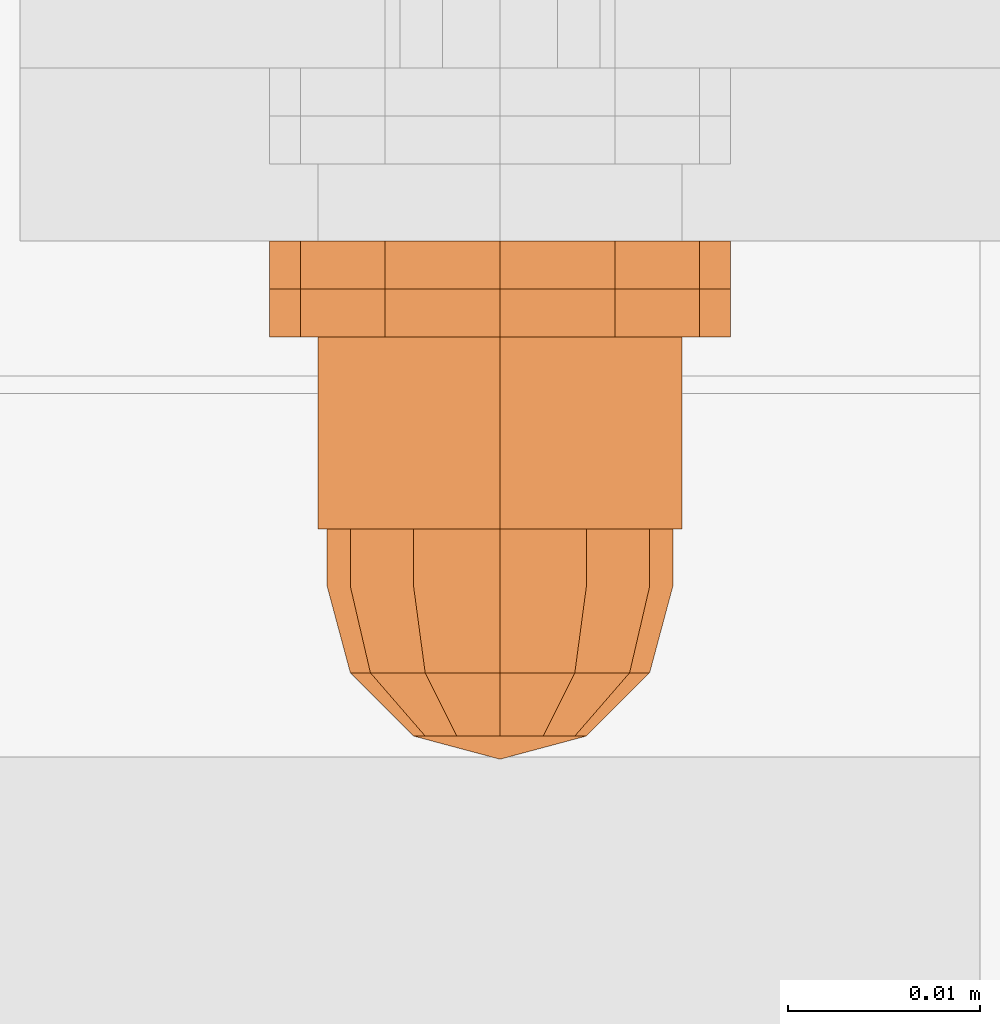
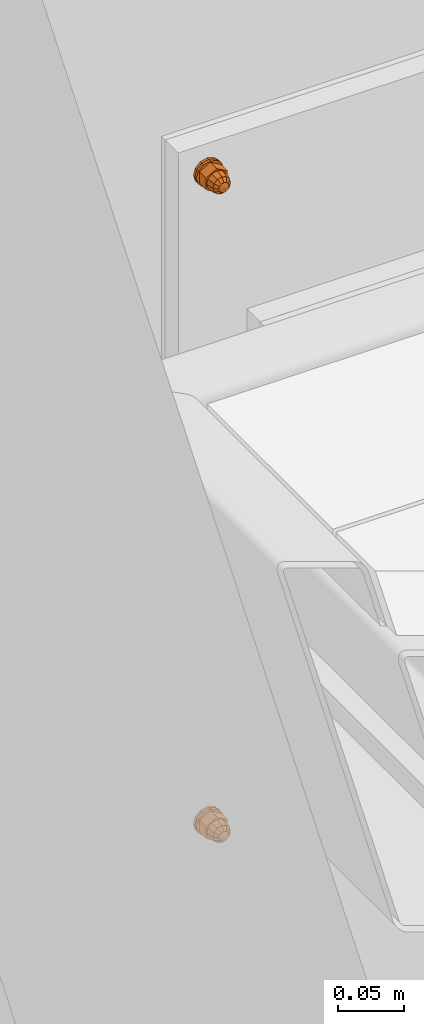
# One storey, part 136 of 162: 6 proxies.
"""IFC2X3 building model written with IfcOpenShell, lengths in millimetres."""

from ifc_helpers import new_model, entity, si_unit, converted_unit, origin_with_axes, place, context, project, spatial, faceted_brep, material, element, save


model = new_model("IFC2X3")

# Units and contexts
model_context = context("Model", 3, precision=1e-09, world=origin_with_axes())
ifc_project = project(units=[si_unit("LENGTHUNIT", "METRE", prefix="MILLI"), si_unit("AREAUNIT", "SQUARE_METRE"), si_unit("VOLUMEUNIT", "CUBIC_METRE"), converted_unit("PLANEANGLEUNIT", "DEGREE", entity("IfcPlaneAngleMeasure", 0.01745329), si_unit("PLANEANGLEUNIT", "RADIAN"), dimensions=[0, 0, 0, 0, 0, 0, 0])], contexts=[model_context])

# Site, building, storey
site_placement = place(None, origin_with_axes())
site = spatial("IfcSite", under=ifc_project, at=site_placement, Name="Hermannstra?e 1a, 60318 Frankfurt", CompositionType="ELEMENT")
building_placement = place(site_placement, origin_with_axes())
building = spatial("IfcBuilding", under=site, at=building_placement, Name="Struktur 1", CompositionType="ELEMENT")
storey_placement = place(building_placement, origin_with_axes())
storey = spatial("IfcBuildingStorey", under=building, at=storey_placement, Name="Default Storey", CompositionType="ELEMENT", Elevation=0.0)

# Proxies
ifc_material_1 = material(Name="Kunststoff")
proxy_1_placement = place(None, origin_with_axes())
element("IfcBuildingElementProxy", 1, at=proxy_1_placement, inside=storey, material=ifc_material_1, ObjectType="-", context=model_context, shape_type="Brep", body=[
    faceted_brep([(2688.702376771, 2708.110081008, 15355.999), (2688.702376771, 2710.610081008, 15355.999), (2690.310071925, 2710.610081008, 15361.999), (2690.310071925, 2708.110081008, 15361.999), (2684.310071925, 2710.610081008, 15351.606695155), (2678.310071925, 2710.610081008, 15349.999), (2672.310071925, 2710.610081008, 15351.606695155), (2667.91776708, 2710.610081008, 15355.999), (2666.310071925, 2710.610081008, 15361.999), (2667.91776708, 2710.610081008, 15367.999), (2672.310071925, 2710.610081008, 15372.391304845), (2678.310071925, 2710.610081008, 15373.999), (2684.310071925, 2710.610081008, 15372.391304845), (2688.702376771, 2710.610081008, 15367.999), (2681.560071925, 2710.610081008, 15356.369834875), (2683.93923705, 2710.610081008, 15358.749), (2684.810071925, 2710.610081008, 15361.999), (2683.93923705, 2710.610081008, 15365.249), (2681.560071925, 2710.610081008, 15367.628165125), (2678.310071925, 2710.610081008, 15368.499), (2675.060071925, 2710.610081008, 15367.628165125), (2672.680906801, 2710.610081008, 15365.249), (2671.810071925, 2710.610081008, 15361.999), (2672.680906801, 2710.610081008, 15358.749), (2675.060071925, 2710.610081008, 15356.369834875), (2678.310071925, 2710.610081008, 15355.499), (2684.810071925, 2708.110081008, 15361.999), (2683.93923705, 2708.110081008, 15358.749), (2684.310071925, 2708.110081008, 15351.606695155), (2688.702376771, 2708.110081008, 15367.999), (2684.310071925, 2708.110081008, 15372.391304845), (2678.310071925, 2708.110081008, 15373.999), (2672.310071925, 2708.110081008, 15372.391304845), (2667.91776708, 2708.110081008, 15367.999), (2666.310071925, 2708.110081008, 15361.999), (2667.91776708, 2708.110081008, 15355.999), (2672.310071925, 2708.110081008, 15351.606695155), (2678.310071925, 2708.110081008, 15349.999), (2681.560071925, 2708.110081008, 15356.369834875), (2678.310071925, 2708.110081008, 15355.499), (2675.060071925, 2708.110081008, 15356.369834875), (2672.680906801, 2708.110081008, 15358.749), (2671.810071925, 2708.110081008, 15361.999), (2672.680906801, 2708.110081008, 15365.249), (2675.060071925, 2708.110081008, 15367.628165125), (2678.310071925, 2708.110081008, 15368.499), (2681.560071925, 2708.110081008, 15367.628165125), (2683.93923705, 2708.110081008, 15365.249)], [[[0, 1, 2, 3]], [[1, 4, 5, 6, 7, 8, 9, 10, 11, 12, 13, 2], [14, 15, 16, 17, 18, 19, 20, 21, 22, 23, 24, 25]], [[26, 16, 15, 27]], [[28, 0, 3, 29, 30, 31, 32, 33, 34, 35, 36, 37], [26, 27, 38, 39, 40, 41, 42, 43, 44, 45, 46, 47]], [[1, 0, 28, 4]], [[16, 26, 47, 17]], [[3, 2, 13, 29]], [[27, 15, 14, 38]], [[4, 28, 37, 5]], [[17, 47, 46, 18]], [[29, 13, 12, 30]], [[38, 14, 25, 39]], [[18, 46, 45, 19]], [[5, 37, 36, 6]], [[39, 25, 24, 40]], [[30, 12, 11, 31]], [[19, 45, 44, 20]], [[6, 36, 35, 7]], [[40, 24, 23, 41]], [[31, 11, 10, 32]], [[20, 44, 43, 21]], [[7, 35, 34, 8]], [[41, 23, 22, 42]], [[32, 10, 9, 33]], [[21, 43, 42, 22]], [[8, 34, 33, 9]]]),
])
ifc_material_2 = material(Name="A4")
proxy_2_placement = place(None, origin_with_axes())
element("IfcBuildingElementProxy", 2, at=proxy_2_placement, inside=storey, material=ifc_material_2, ObjectType="-", context=model_context, shape_type="Brep", body=[
    faceted_brep([(2667.91776708, 2705.610081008, 15355.999), (2667.91776708, 2708.110081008, 15355.999), (2672.310071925, 2708.110081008, 15351.606695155), (2672.310071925, 2705.610081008, 15351.606695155), (2678.310071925, 2705.610081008, 15349.999), (2684.310071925, 2705.610081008, 15351.606695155), (2688.702376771, 2705.610081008, 15355.999), (2690.310071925, 2705.610081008, 15361.999), (2688.702376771, 2705.610081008, 15367.999), (2684.310071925, 2705.610081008, 15372.391304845), (2678.310071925, 2705.610081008, 15373.999), (2672.310071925, 2705.610081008, 15372.391304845), (2667.91776708, 2705.610081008, 15367.999), (2666.310071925, 2705.610081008, 15361.999), (2681.560071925, 2705.610081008, 15356.369834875), (2678.310071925, 2705.610081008, 15355.499), (2675.060071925, 2705.610081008, 15356.369834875), (2672.680906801, 2705.610081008, 15358.749), (2671.810071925, 2705.610081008, 15361.999), (2672.680906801, 2705.610081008, 15365.249), (2675.060071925, 2705.610081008, 15367.628165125), (2678.310071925, 2705.610081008, 15368.499), (2681.560071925, 2705.610081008, 15367.628165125), (2683.93923705, 2705.610081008, 15365.249), (2684.810071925, 2705.610081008, 15361.999), (2683.93923705, 2705.610081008, 15358.749), (2666.310071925, 2708.110081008, 15361.999), (2667.91776708, 2708.110081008, 15367.999), (2672.310071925, 2708.110081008, 15372.391304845), (2678.310071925, 2708.110081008, 15373.999), (2684.310071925, 2708.110081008, 15372.391304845), (2688.702376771, 2708.110081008, 15367.999), (2690.310071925, 2708.110081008, 15361.999), (2688.702376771, 2708.110081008, 15355.999), (2684.310071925, 2708.110081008, 15351.606695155), (2678.310071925, 2708.110081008, 15349.999), (2671.810071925, 2708.110081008, 15361.999), (2672.680906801, 2708.110081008, 15358.749), (2675.060071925, 2708.110081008, 15356.369834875), (2678.310071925, 2708.110081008, 15355.499), (2681.560071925, 2708.110081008, 15356.369834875), (2683.93923705, 2708.110081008, 15358.749), (2684.810071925, 2708.110081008, 15361.999), (2683.93923705, 2708.110081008, 15365.249), (2681.560071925, 2708.110081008, 15367.628165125), (2678.310071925, 2708.110081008, 15368.499), (2675.060071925, 2708.110081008, 15367.628165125), (2672.680906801, 2708.110081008, 15365.249)], [[[0, 1, 2, 3]], [[3, 4, 5, 6, 7, 8, 9, 10, 11, 12, 13, 0], [14, 15, 16, 17, 18, 19, 20, 21, 22, 23, 24, 25]], [[1, 26, 27, 28, 29, 30, 31, 32, 33, 34, 35, 2], [36, 37, 38, 39, 40, 41, 42, 43, 44, 45, 46, 47]], [[37, 17, 16, 38]], [[1, 0, 13, 26]], [[17, 37, 36, 18]], [[38, 16, 15, 39]], [[3, 2, 35, 4]], [[26, 13, 12, 27]], [[18, 36, 47, 19]], [[39, 15, 14, 40]], [[4, 35, 34, 5]], [[27, 12, 11, 28]], [[19, 47, 46, 20]], [[40, 14, 25, 41]], [[5, 34, 33, 6]], [[24, 42, 41, 25]], [[28, 11, 10, 29]], [[20, 46, 45, 21]], [[23, 43, 42, 24]], [[6, 33, 32, 7]], [[44, 22, 21, 45]], [[43, 23, 22, 44]], [[29, 10, 9, 30]], [[7, 32, 31, 8]], [[30, 9, 8, 31]]]),
])
proxy_3_placement = place(None, origin_with_axes())
element("IfcBuildingElementProxy", 3, at=proxy_3_placement, inside=storey, material=ifc_material_2, ObjectType="-", context=model_context, shape_type="Brep", body=[
    faceted_brep([(2684.310071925, 2705.610081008, 15361.999), (2684.310071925, 2695.610081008, 15361.999), (2683.506224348, 2695.610081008, 15364.999), (2683.506224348, 2705.610081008, 15364.999), (2681.310071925, 2695.610081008, 15367.195152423), (2681.310071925, 2705.610081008, 15367.195152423), (2683.506224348, 2705.610081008, 15358.999), (2683.506224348, 2695.610081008, 15358.999), (2687.789941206, 2705.610081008, 15356.525794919), (2678.310071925, 2705.610081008, 15351.052589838), (2668.830202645, 2705.610081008, 15356.525794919), (2668.830202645, 2705.610081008, 15367.472205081), (2678.310071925, 2705.610081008, 15372.945410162), (2687.789941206, 2705.610081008, 15367.472205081), (2681.310071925, 2705.610081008, 15356.802847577), (2678.310071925, 2705.610081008, 15367.999), (2675.310071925, 2705.610081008, 15367.195152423), (2673.113919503, 2705.610081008, 15364.999), (2672.310071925, 2705.610081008, 15361.999), (2673.113919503, 2705.610081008, 15358.999), (2675.310071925, 2705.610081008, 15356.802847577), (2678.310071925, 2705.610081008, 15355.999), (2678.310071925, 2695.610081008, 15351.052589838), (2687.789941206, 2695.610081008, 15356.525794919), (2687.789941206, 2695.610081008, 15367.472205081), (2678.310071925, 2695.610081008, 15372.945410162), (2668.830202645, 2695.610081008, 15367.472205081), (2668.830202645, 2695.610081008, 15356.525794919), (2681.310071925, 2695.610081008, 15356.802847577), (2678.310071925, 2695.610081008, 15355.999), (2675.310071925, 2695.610081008, 15356.802847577), (2673.113919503, 2695.610081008, 15358.999), (2672.310071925, 2695.610081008, 15361.999), (2673.113919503, 2695.610081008, 15364.999), (2675.310071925, 2695.610081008, 15367.195152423), (2678.310071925, 2695.610081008, 15367.999)], [[[0, 1, 2, 3]], [[3, 2, 4, 5]], [[1, 0, 6, 7]], [[8, 9, 10, 11, 12, 13], [14, 6, 0, 3, 5, 15, 16, 17, 18, 19, 20, 21]], [[22, 23, 24, 25, 26, 27], [1, 7, 28, 29, 30, 31, 32, 33, 34, 35, 4, 2]], [[7, 6, 14, 28]], [[24, 23, 8, 13]], [[5, 4, 35, 15]], [[13, 12, 25, 24]], [[28, 14, 21, 29]], [[23, 22, 9, 8]], [[15, 35, 34, 16]], [[12, 11, 26, 25]], [[29, 21, 20, 30]], [[22, 27, 10, 9]], [[16, 34, 33, 17]], [[27, 26, 11, 10]], [[30, 20, 19, 31]], [[17, 33, 32, 18]], [[31, 19, 18, 32]]]),
    faceted_brep([(2678.310071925, 2695.610081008, 15352.999), (2678.310071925, 2692.610081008, 15352.999), (2673.810071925, 2692.610081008, 15354.204771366), (2673.810071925, 2695.610081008, 15354.204771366), (2682.810071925, 2695.610081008, 15354.204771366), (2682.810071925, 2692.610081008, 15354.204771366), (2686.104300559, 2692.610081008, 15366.499), (2682.810071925, 2692.610081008, 15369.793228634), (2678.310071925, 2692.610081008, 15370.999), (2673.810071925, 2692.610081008, 15369.793228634), (2670.515843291, 2692.610081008, 15366.499), (2669.310071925, 2692.610081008, 15361.999), (2670.515843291, 2692.610081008, 15357.499), (2686.104300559, 2692.610081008, 15357.499), (2687.310071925, 2692.610081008, 15361.999), (2670.515843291, 2695.610081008, 15366.499), (2673.810071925, 2695.610081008, 15369.793228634), (2678.310071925, 2695.610081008, 15370.999), (2682.810071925, 2695.610081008, 15369.793228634), (2686.104300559, 2695.610081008, 15366.499), (2687.310071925, 2695.610081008, 15361.999), (2686.104300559, 2695.610081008, 15357.499), (2670.515843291, 2695.610081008, 15357.499), (2669.310071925, 2695.610081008, 15361.999)], [[[0, 1, 2, 3]], [[1, 0, 4, 5]], [[6, 7, 8, 9, 10, 11, 12, 2, 1, 5, 13, 14]], [[15, 16, 17, 18, 19, 20, 21, 4, 0, 3, 22, 23]], [[3, 2, 12, 22]], [[5, 4, 21, 13]], [[22, 12, 11, 23]], [[13, 21, 20, 14]], [[7, 18, 17, 8]], [[19, 6, 14, 20]], [[18, 7, 6, 19]], [[23, 11, 10, 15]], [[8, 17, 16, 9]], [[15, 10, 9, 16]]]),
    faceted_brep([(2686.104300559, 2692.610081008, 15357.499), (2685.060071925, 2688.110081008, 15358.101885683), (2682.207186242, 2688.110081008, 15355.249), (2682.810071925, 2692.610081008, 15354.204771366), (2670.515843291, 2692.610081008, 15366.499), (2673.810071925, 2692.610081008, 15369.793228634), (2678.310071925, 2692.610081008, 15370.999), (2682.810071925, 2692.610081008, 15369.793228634), (2686.104300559, 2692.610081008, 15366.499), (2687.310071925, 2692.610081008, 15361.999), (2678.310071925, 2692.610081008, 15352.999), (2673.810071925, 2692.610081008, 15354.204771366), (2670.515843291, 2692.610081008, 15357.499), (2669.310071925, 2692.610081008, 15361.999), (2678.310071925, 2688.110081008, 15354.204771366), (2686.104300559, 2688.110081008, 15361.999), (2682.810071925, 2684.815852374, 15361.999), (2682.207186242, 2684.815852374, 15359.749), (2674.412957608, 2688.110081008, 15355.249), (2680.560071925, 2684.815852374, 15358.101885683), (2685.060071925, 2688.110081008, 15365.896114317), (2682.207186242, 2684.815852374, 15364.249), (2678.310071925, 2684.815852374, 15357.499), (2678.310071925, 2683.610081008, 15361.999), (2682.207186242, 2688.110081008, 15368.749), (2680.560071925, 2684.815852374, 15365.896114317), (2678.310071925, 2688.110081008, 15369.793228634), (2671.560071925, 2688.110081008, 15358.101885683), (2676.060071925, 2684.815852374, 15358.101885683), (2678.310071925, 2684.815852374, 15366.499), (2674.412957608, 2688.110081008, 15368.749), (2676.060071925, 2684.815852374, 15365.896114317), (2670.515843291, 2688.110081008, 15361.999), (2674.412957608, 2684.815852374, 15359.749), (2671.560071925, 2688.110081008, 15365.896114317), (2674.412957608, 2684.815852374, 15364.249), (2673.810071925, 2684.815852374, 15361.999)], [[[0, 1, 2, 3]], [[4, 5, 6, 7, 8, 9, 0, 3, 10, 11, 12, 13]], [[3, 2, 14, 10]], [[15, 16, 17, 1]], [[1, 0, 9, 15]], [[10, 14, 18, 11]], [[1, 17, 19, 2]], [[16, 15, 20, 21]], [[2, 19, 22, 14]], [[23, 17, 16]], [[24, 25, 21, 20]], [[23, 16, 21]], [[24, 7, 6, 26]], [[20, 8, 7, 24]], [[15, 9, 8, 20]], [[11, 18, 27, 12]], [[14, 22, 28, 18]], [[23, 19, 17]], [[26, 29, 25, 24]], [[23, 21, 25]], [[23, 22, 19]], [[26, 6, 5, 30]], [[29, 26, 30, 31]], [[23, 25, 29]], [[12, 27, 32, 13]], [[18, 28, 33, 27]], [[23, 28, 22]], [[23, 29, 31]], [[23, 33, 28]], [[30, 5, 4, 34]], [[31, 30, 34, 35]], [[23, 31, 35]], [[13, 32, 34, 4]], [[27, 33, 36, 32]], [[23, 36, 33]], [[23, 35, 36]], [[35, 34, 32, 36]]]),
])
proxy_4_placement = place(None, origin_with_axes())
element("IfcBuildingElementProxy", 4, at=proxy_4_placement, inside=storey, material=ifc_material_2, ObjectType="-", context=model_context, shape_type="Brep", body=[
    faceted_brep([(2684.310071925, 2695.610081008, 14761.999), (2684.310071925, 2705.610081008, 14761.999), (2683.506224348, 2705.610081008, 14758.999), (2683.506224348, 2695.610081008, 14758.999), (2681.310071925, 2705.610081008, 14756.802847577), (2681.310071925, 2695.610081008, 14756.802847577), (2683.506224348, 2695.610081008, 14764.999), (2683.506224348, 2705.610081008, 14764.999), (2687.789941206, 2705.610081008, 14767.472205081), (2687.789941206, 2705.610081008, 14756.525794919), (2678.310071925, 2705.610081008, 14751.052589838), (2668.830202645, 2705.610081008, 14756.525794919), (2668.830202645, 2705.610081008, 14767.472205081), (2678.310071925, 2705.610081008, 14772.945410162), (2681.310071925, 2705.610081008, 14767.195152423), (2678.310071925, 2705.610081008, 14767.999), (2675.310071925, 2705.610081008, 14767.195152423), (2673.113919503, 2705.610081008, 14764.999), (2672.310071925, 2705.610081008, 14761.999), (2673.113919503, 2705.610081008, 14758.999), (2675.310071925, 2705.610081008, 14756.802847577), (2678.310071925, 2705.610081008, 14755.999), (2687.789941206, 2695.610081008, 14767.472205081), (2678.310071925, 2695.610081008, 14772.945410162), (2668.830202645, 2695.610081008, 14767.472205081), (2668.830202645, 2695.610081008, 14756.525794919), (2678.310071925, 2695.610081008, 14751.052589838), (2687.789941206, 2695.610081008, 14756.525794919), (2681.310071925, 2695.610081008, 14767.195152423), (2678.310071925, 2695.610081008, 14755.999), (2678.310071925, 2695.610081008, 14767.999), (2675.310071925, 2695.610081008, 14756.802847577), (2675.310071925, 2695.610081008, 14767.195152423), (2673.113919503, 2695.610081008, 14758.999), (2673.113919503, 2695.610081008, 14764.999), (2672.310071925, 2695.610081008, 14761.999)], [[[0, 1, 2, 3]], [[3, 2, 4, 5]], [[1, 0, 6, 7]], [[8, 9, 10, 11, 12, 13], [7, 14, 15, 16, 17, 18, 19, 20, 21, 4, 2, 1]], [[22, 23, 24, 25, 26, 27]], [[7, 6, 28, 14]], [[22, 27, 9, 8]], [[5, 4, 21, 29]], [[10, 9, 27, 26]], [[14, 28, 30, 15]], [[23, 22, 8, 13]], [[29, 21, 20, 31]], [[11, 10, 26, 25]], [[15, 30, 32, 16]], [[24, 23, 13, 12]], [[31, 20, 19, 33]], [[25, 24, 12, 11]], [[16, 32, 34, 17]], [[33, 19, 18, 35]], [[17, 34, 35, 18]]]),
    faceted_brep([(2678.310071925, 2692.610081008, 14770.999), (2678.310071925, 2695.610081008, 14770.999), (2673.810071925, 2695.610081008, 14769.793228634), (2673.810071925, 2692.610081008, 14769.793228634), (2682.810071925, 2692.610081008, 14769.793228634), (2682.810071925, 2695.610081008, 14769.793228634), (2682.810071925, 2692.610081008, 14754.204771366), (2686.104300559, 2692.610081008, 14757.499), (2687.310071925, 2692.610081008, 14761.999), (2686.104300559, 2692.610081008, 14766.499), (2670.515843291, 2692.610081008, 14766.499), (2669.310071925, 2692.610081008, 14761.999), (2670.515843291, 2692.610081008, 14757.499), (2673.810071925, 2692.610081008, 14754.204771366), (2678.310071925, 2692.610081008, 14752.999), (2673.810071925, 2695.610081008, 14754.204771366), (2670.515843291, 2695.610081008, 14757.499), (2669.310071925, 2695.610081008, 14761.999), (2670.515843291, 2695.610081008, 14766.499), (2686.104300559, 2695.610081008, 14766.499), (2687.310071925, 2695.610081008, 14761.999), (2686.104300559, 2695.610081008, 14757.499), (2682.810071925, 2695.610081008, 14754.204771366), (2678.310071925, 2695.610081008, 14752.999)], [[[0, 1, 2, 3]], [[1, 0, 4, 5]], [[6, 7, 8, 9, 4, 0, 3, 10, 11, 12, 13, 14]], [[15, 16, 17, 18, 2, 1, 5, 19, 20, 21, 22, 23]], [[3, 2, 18, 10]], [[5, 4, 9, 19]], [[10, 18, 17, 11]], [[19, 9, 8, 20]], [[22, 6, 14, 23]], [[7, 21, 20, 8]], [[6, 22, 21, 7]], [[11, 17, 16, 12]], [[23, 14, 13, 15]], [[12, 16, 15, 13]]]),
    faceted_brep([(2685.060071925, 2688.110081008, 14765.896114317), (2686.104300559, 2692.610081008, 14766.499), (2682.810071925, 2692.610081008, 14769.793228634), (2682.207186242, 2688.110081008, 14768.749), (2673.810071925, 2692.610081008, 14754.204771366), (2670.515843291, 2692.610081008, 14757.499), (2669.310071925, 2692.610081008, 14761.999), (2670.515843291, 2692.610081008, 14766.499), (2673.810071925, 2692.610081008, 14769.793228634), (2678.310071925, 2692.610081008, 14770.999), (2687.310071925, 2692.610081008, 14761.999), (2686.104300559, 2692.610081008, 14757.499), (2682.810071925, 2692.610081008, 14754.204771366), (2678.310071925, 2692.610081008, 14752.999), (2678.310071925, 2688.110081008, 14769.793228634), (2682.810071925, 2684.815852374, 14761.999), (2686.104300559, 2688.110081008, 14761.999), (2682.207186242, 2684.815852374, 14764.249), (2674.412957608, 2688.110081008, 14768.749), (2680.560071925, 2684.815852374, 14765.896114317), (2682.207186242, 2684.815852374, 14759.749), (2685.060071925, 2688.110081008, 14758.101885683), (2678.310071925, 2684.815852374, 14766.499), (2678.310071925, 2683.610081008, 14761.999), (2680.560071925, 2684.815852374, 14758.101885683), (2682.207186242, 2688.110081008, 14755.249), (2678.310071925, 2688.110081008, 14754.204771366), (2671.560071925, 2688.110081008, 14765.896114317), (2676.060071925, 2684.815852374, 14765.896114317), (2678.310071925, 2684.815852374, 14757.499), (2674.412957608, 2688.110081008, 14755.249), (2676.060071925, 2684.815852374, 14758.101885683), (2670.515843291, 2688.110081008, 14761.999), (2674.412957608, 2684.815852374, 14764.249), (2671.560071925, 2688.110081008, 14758.101885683), (2674.412957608, 2684.815852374, 14759.749), (2673.810071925, 2684.815852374, 14761.999)], [[[0, 1, 2, 3]], [[4, 5, 6, 7, 8, 9, 2, 1, 10, 11, 12, 13]], [[3, 2, 9, 14]], [[15, 16, 0, 17]], [[1, 0, 16, 10]], [[14, 9, 8, 18]], [[17, 0, 3, 19]], [[16, 15, 20, 21]], [[19, 3, 14, 22]], [[17, 23, 15]], [[24, 25, 21, 20]], [[15, 23, 20]], [[12, 25, 26, 13]], [[11, 21, 25, 12]], [[10, 16, 21, 11]], [[18, 8, 7, 27]], [[22, 14, 18, 28]], [[19, 23, 17]], [[29, 26, 25, 24]], [[20, 23, 24]], [[22, 23, 19]], [[13, 26, 30, 4]], [[26, 29, 31, 30]], [[24, 23, 29]], [[27, 7, 6, 32]], [[28, 18, 27, 33]], [[28, 23, 22]], [[29, 23, 31]], [[33, 23, 28]], [[4, 30, 34, 5]], [[30, 31, 35, 34]], [[31, 23, 35]], [[32, 6, 5, 34]], [[33, 27, 32, 36]], [[36, 23, 33]], [[35, 23, 36]], [[34, 35, 36, 32]]]),
])
proxy_5_placement = place(None, origin_with_axes())
element("IfcBuildingElementProxy", 5, at=proxy_5_placement, inside=storey, material=ifc_material_2, ObjectType="-", context=model_context, shape_type="Brep", body=[
    faceted_brep([(2667.91776708, 2708.110081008, 14767.999), (2667.91776708, 2705.610081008, 14767.999), (2672.310071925, 2705.610081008, 14772.391304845), (2672.310071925, 2708.110081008, 14772.391304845), (2666.310071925, 2705.610081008, 14761.999), (2667.91776708, 2705.610081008, 14755.999), (2672.310071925, 2705.610081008, 14751.606695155), (2678.310071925, 2705.610081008, 14749.999), (2684.310071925, 2705.610081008, 14751.606695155), (2688.702376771, 2705.610081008, 14755.999), (2690.310071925, 2705.610081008, 14761.999), (2688.702376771, 2705.610081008, 14767.999), (2684.310071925, 2705.610081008, 14772.391304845), (2678.310071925, 2705.610081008, 14773.999), (2678.310071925, 2705.610081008, 14768.499), (2681.560071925, 2705.610081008, 14767.628165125), (2683.93923705, 2705.610081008, 14765.249), (2684.810071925, 2705.610081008, 14761.999), (2683.93923705, 2705.610081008, 14758.749), (2681.560071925, 2705.610081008, 14756.369834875), (2678.310071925, 2705.610081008, 14755.499), (2675.060071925, 2705.610081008, 14756.369834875), (2672.680906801, 2705.610081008, 14758.749), (2671.810071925, 2705.610081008, 14761.999), (2672.680906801, 2705.610081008, 14765.249), (2675.060071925, 2705.610081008, 14767.628165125), (2672.680906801, 2708.110081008, 14765.249), (2671.810071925, 2708.110081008, 14761.999), (2672.680906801, 2708.110081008, 14758.749), (2675.060071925, 2708.110081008, 14756.369834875), (2678.310071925, 2708.110081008, 14755.499), (2681.560071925, 2708.110081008, 14756.369834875), (2683.93923705, 2708.110081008, 14758.749), (2684.810071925, 2708.110081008, 14761.999), (2683.93923705, 2708.110081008, 14765.249), (2681.560071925, 2708.110081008, 14767.628165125), (2678.310071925, 2708.110081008, 14768.499), (2675.060071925, 2708.110081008, 14767.628165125), (2666.310071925, 2708.110081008, 14761.999), (2678.310071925, 2708.110081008, 14773.999), (2667.91776708, 2708.110081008, 14755.999), (2684.310071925, 2708.110081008, 14772.391304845), (2672.310071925, 2708.110081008, 14751.606695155), (2688.702376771, 2708.110081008, 14767.999), (2678.310071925, 2708.110081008, 14749.999), (2690.310071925, 2708.110081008, 14761.999), (2684.310071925, 2708.110081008, 14751.606695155), (2688.702376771, 2708.110081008, 14755.999)], [[[0, 1, 2, 3]], [[2, 1, 4, 5, 6, 7, 8, 9, 10, 11, 12, 13], [14, 15, 16, 17, 18, 19, 20, 21, 22, 23, 24, 25]], [[26, 27, 28, 29, 30, 31, 32, 33, 34, 35, 36, 37]], [[24, 26, 37, 25]], [[1, 0, 38, 4]], [[26, 24, 23, 27]], [[25, 37, 36, 14]], [[3, 2, 13, 39]], [[4, 38, 40, 5]], [[27, 23, 22, 28]], [[14, 36, 35, 15]], [[39, 13, 12, 41]], [[5, 40, 42, 6]], [[28, 22, 21, 29]], [[15, 35, 34, 16]], [[41, 12, 11, 43]], [[33, 17, 16, 34]], [[6, 42, 44, 7]], [[29, 21, 20, 30]], [[32, 18, 17, 33]], [[43, 11, 10, 45]], [[19, 31, 30, 20]], [[18, 32, 31, 19]], [[7, 44, 46, 8]], [[45, 10, 9, 47]], [[8, 46, 47, 9]]]),
])
proxy_6_placement = place(None, origin_with_axes())
element("IfcBuildingElementProxy", 6, at=proxy_6_placement, inside=storey, material=ifc_material_1, ObjectType="-", context=model_context, shape_type="Brep", body=[
    faceted_brep([(2688.702376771, 2710.610081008, 14767.999), (2688.702376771, 2708.110081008, 14767.999), (2690.310071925, 2708.110081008, 14761.999), (2690.310071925, 2710.610081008, 14761.999), (2683.93923705, 2710.610081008, 14765.249), (2681.560071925, 2710.610081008, 14767.628165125), (2678.310071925, 2710.610081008, 14768.499), (2675.060071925, 2710.610081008, 14767.628165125), (2672.680906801, 2710.610081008, 14765.249), (2671.810071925, 2710.610081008, 14761.999), (2672.680906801, 2710.610081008, 14758.749), (2675.060071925, 2710.610081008, 14756.369834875), (2678.310071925, 2710.610081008, 14755.499), (2681.560071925, 2710.610081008, 14756.369834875), (2683.93923705, 2710.610081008, 14758.749), (2684.810071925, 2710.610081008, 14761.999), (2684.810071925, 2708.110081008, 14761.999), (2683.93923705, 2708.110081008, 14765.249), (2684.310071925, 2708.110081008, 14772.391304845), (2678.310071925, 2708.110081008, 14773.999), (2672.310071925, 2708.110081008, 14772.391304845), (2667.91776708, 2708.110081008, 14767.999), (2666.310071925, 2708.110081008, 14761.999), (2667.91776708, 2708.110081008, 14755.999), (2672.310071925, 2708.110081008, 14751.606695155), (2678.310071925, 2708.110081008, 14749.999), (2684.310071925, 2708.110081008, 14751.606695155), (2688.702376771, 2708.110081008, 14755.999), (2684.310071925, 2710.610081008, 14772.391304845), (2683.93923705, 2708.110081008, 14758.749), (2688.702376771, 2710.610081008, 14755.999), (2681.560071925, 2708.110081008, 14767.628165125), (2678.310071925, 2710.610081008, 14773.999), (2681.560071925, 2708.110081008, 14756.369834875), (2684.310071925, 2710.610081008, 14751.606695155), (2678.310071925, 2708.110081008, 14768.499), (2678.310071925, 2708.110081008, 14755.499), (2672.310071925, 2710.610081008, 14772.391304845), (2675.060071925, 2708.110081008, 14767.628165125), (2678.310071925, 2710.610081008, 14749.999), (2675.060071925, 2708.110081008, 14756.369834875), (2667.91776708, 2710.610081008, 14767.999), (2672.680906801, 2708.110081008, 14765.249), (2672.310071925, 2710.610081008, 14751.606695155), (2672.680906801, 2708.110081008, 14758.749), (2666.310071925, 2710.610081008, 14761.999), (2671.810071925, 2708.110081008, 14761.999), (2667.91776708, 2710.610081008, 14755.999)], [[[0, 1, 2, 3]], [[4, 5, 6, 7, 8, 9, 10, 11, 12, 13, 14, 15]], [[15, 16, 17, 4]], [[1, 18, 19, 20, 21, 22, 23, 24, 25, 26, 27, 2]], [[1, 0, 28, 18]], [[16, 15, 14, 29]], [[3, 2, 27, 30]], [[4, 17, 31, 5]], [[18, 28, 32, 19]], [[29, 14, 13, 33]], [[30, 27, 26, 34]], [[5, 31, 35, 6]], [[33, 13, 12, 36]], [[19, 32, 37, 20]], [[6, 35, 38, 7]], [[34, 26, 25, 39]], [[36, 12, 11, 40]], [[20, 37, 41, 21]], [[7, 38, 42, 8]], [[39, 25, 24, 43]], [[40, 11, 10, 44]], [[21, 41, 45, 22]], [[8, 42, 46, 9]], [[43, 24, 23, 47]], [[44, 10, 9, 46]], [[22, 45, 47, 23]]]),
])

save(model, "model.ifc")
